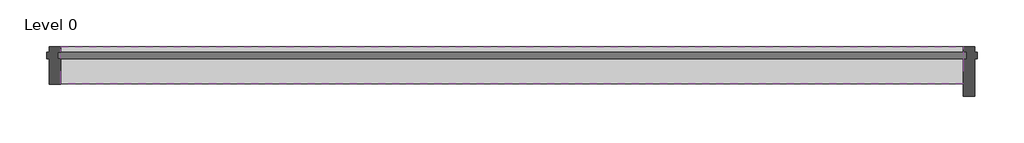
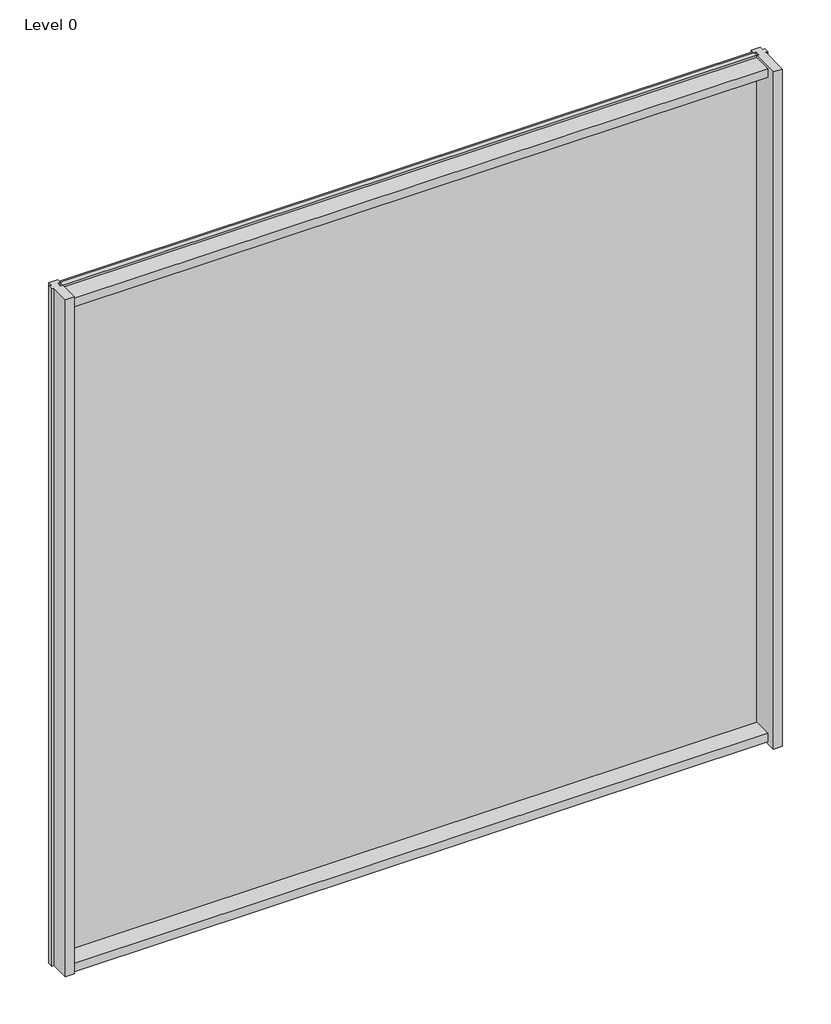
# One storey: 4 members, 1 plate.
"""IFC4 building model written with IfcOpenShell, lengths in millimetres."""

from ifc_helpers import new_model, si_unit, origin, place, context, project, spatial, transform, mapped, element, save
from components import rectangular_mullion_mullion_jamb_left_ca3dfa91, rectangular_mullion_mullion_jamb_right_bdbe1367, rectangular_mullion_transom_cill_11a12331, rectangular_mullion_transom_head_b300effe, system_panel_glazed_52556e8a

model = new_model("IFC4")

# Units and contexts
model_context = context("Model", 3, world=origin())
ifc_project = project(units=[si_unit("LENGTHUNIT", "METRE", prefix="MILLI")], contexts=[model_context])

# Site, building, storey
site = spatial("IfcSite", under=ifc_project)
building = spatial("IfcBuilding", under=site)
storey = spatial("IfcBuildingStorey", under=building, Name="Level 0", Elevation=0.0)

# Members
placement = place(None, origin())
rectangular_mullion_mullion_jamb_left_shape = rectangular_mullion_mullion_jamb_left_ca3dfa91(model_context)
element("IfcMember", 1, ObjectType="Rectangular Mullion : Mullion - Jamb Left", at=placement, inside=storey, context=model_context, shape_type="MappedRepresentation", body=[
    mapped(rectangular_mullion_mullion_jamb_left_shape, transform((1090.2659519, 4113.6704179, 4000.0), x_axis=(-1.0, 0.0, 0.0), y_axis=(0.0, -1.0, 0.0), z_axis=(0.0, 0.0, 1.0))),
])
rectangular_mullion_mullion_jamb_right_shape = rectangular_mullion_mullion_jamb_right_bdbe1367(model_context)
element("IfcMember", 2, ObjectType="Rectangular Mullion : Mullion - Jamb Right", at=placement, inside=storey, context=model_context, shape_type="MappedRepresentation", body=[
    mapped(rectangular_mullion_mullion_jamb_right_shape, transform((5090.2659519, 4113.6704179, 0.0), x_axis=(1.0, 0.0, 0.0), y_axis=(0.0, -1.0, 0.0), z_axis=(0.0, 0.0, -1.0))),
])
rectangular_mullion_transom_cill_shape = rectangular_mullion_transom_cill_11a12331(model_context)
element("IfcMember", 3, ObjectType="Rectangular Mullion : Transom - Cill", at=placement, inside=storey, context=model_context, shape_type="MappedRepresentation", body=[
    mapped(rectangular_mullion_transom_cill_shape, transform((1152.2468729, 4113.6704179, 0.0), x_axis=(0.0, 0.0, -1.0), y_axis=(0.0, -1.0, 0.0), z_axis=(-1.0, 0.0, 0.0))),
])
rectangular_mullion_transom_head_shape = rectangular_mullion_transom_head_b300effe(model_context)
element("IfcMember", 4, ObjectType="Rectangular Mullion : Transom - Head", at=placement, inside=storey, context=model_context, shape_type="MappedRepresentation", body=[
    mapped(rectangular_mullion_transom_head_shape, transform((5028.2850309, 4113.6704179, 4000.0), x_axis=(0.0, 0.0, 1.0), y_axis=(0.0, -1.0, 0.0), z_axis=(1.0, 0.0, 0.0))),
])

# Plate
system_panel_glazed_shape = system_panel_glazed_52556e8a(model_context)
element("IfcPlate", 5, ObjectType="System Panel : Glazed", at=placement, inside=storey, context=model_context, shape_type="MappedRepresentation", body=[
    mapped(system_panel_glazed_shape, transform((3090.2659519, 4113.6704179, 48.0), x_axis=(1.0, 0.0, 0.0), y_axis=(0.0, 1.0, 0.0), z_axis=(0.0, 0.0, 1.0))),
])

save(model, "model.ifc")
